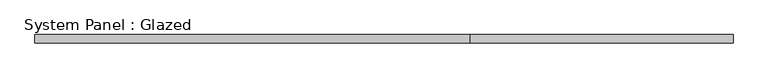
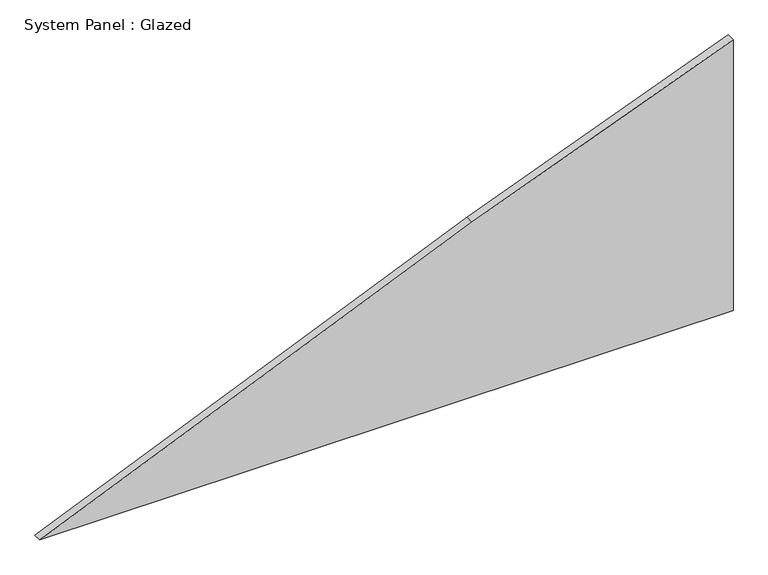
"""IFC4 building model written with IfcOpenShell, lengths in millimetres: plate geometry, System Panel : Glazed."""

from ifc_helpers import new_model, si_unit, frame, origin, place, context, project, spatial, polyline, outline, extrude, source, transform, mapped, element, save


def system_panel_glazed_ab809f82(model_context):
    return source(origin(), model_context, "Body", "SweptSolid", [
        extrude(outline(polyline([(0.0, -1074.7971895), (0.0, 1074.7971895), (888.3246749, 1074.7971895), (573.3990298, 265.1718256), (0.0, -1074.7971895)])), frame((0.0, 19.05, 0.0), z_axis=(0.0, 1.0, 0.0), x_axis=(0.0, 0.0, 1.0)), (0.0, 0.0, 1.0), 25.4),
    ])


if __name__ == "__main__":
    model = new_model("IFC4")
    model_context = context("Model", 3, world=origin())
    ifc_project = project(units=[si_unit("LENGTHUNIT", "METRE", prefix="MILLI")], contexts=[model_context])
    site = spatial("IfcSite", under=ifc_project)
    building = spatial("IfcBuilding", under=site)
    placement = place(None, origin())
    system_panel_glazed_shape = system_panel_glazed_ab809f82(model_context)
    element("IfcPlate", 1, ObjectType="System Panel : Glazed", at=placement, inside=building, context=model_context, shape_type="MappedRepresentation", body=[
        mapped(system_panel_glazed_shape, transform((0.0, 0.0, 0.0), x_axis=(1.0, 0.0, 0.0), y_axis=(0.0, 1.0, 0.0), z_axis=(0.0, 0.0, 1.0))),
    ])
    save(model, "model.ifc")
